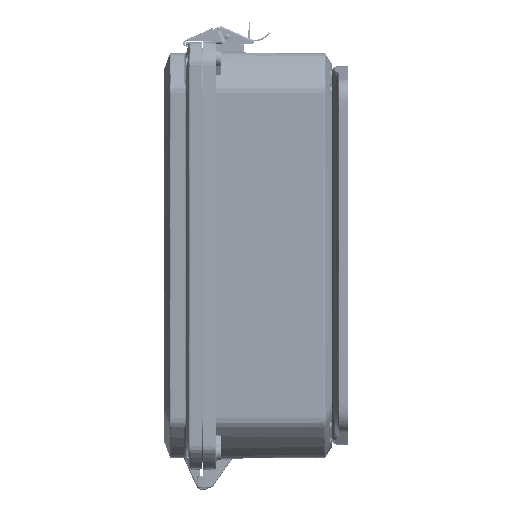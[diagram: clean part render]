
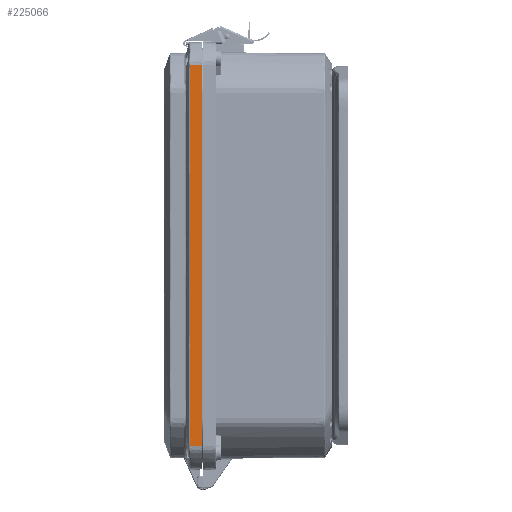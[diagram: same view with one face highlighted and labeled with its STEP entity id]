
A CAD part, left-side view. The second image highlights one B-rep face of the part: STEP entity #225066.
In plain terms, the highlighted planar face has unit normal (-0.999, 0.035, 0).
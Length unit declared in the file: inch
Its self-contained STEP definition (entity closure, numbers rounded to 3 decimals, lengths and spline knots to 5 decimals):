
#1344 = CARTESIAN_POINT ( 'NONE',  ( -7.62, 0., 5.89046 ) ) ;
#9575 = CARTESIAN_POINT ( 'NONE',  ( -7.60732, 0.36315, 3.4361 ) ) ;
#13326 = ORIENTED_EDGE ( 'NONE', *, *, #24095, .T. ) ;
#13771 = CARTESIAN_POINT ( 'NONE',  ( -7.60732, 0.36315, -3.4361 ) ) ;
#24095 = EDGE_CURVE ( 'NONE', #170306, #271813, #139493, .T. ) ;
#33733 = VERTEX_POINT ( 'NONE', #208884 ) ;
#38604 = CARTESIAN_POINT ( 'NONE',  ( -7.60731, 0.36331, -5.46095 ) ) ;
#40321 = CARTESIAN_POINT ( 'NONE',  ( -7.60731, 0.36335, -0.98174 ) ) ;
#44780 = CARTESIAN_POINT ( 'NONE',  ( -7.60732, 0.36323, 5.03144 ) ) ;
#56137 = CARTESIAN_POINT ( 'NONE',  ( -7.62, 0., -5.89046 ) ) ;
#57362 = VECTOR ( 'NONE', #117869, 39.37008 ) ;
#66920 = AXIS2_PLACEMENT_3D ( 'NONE', #282203, #283902, #177388 ) ;
#67737 = EDGE_CURVE ( 'NONE', #256598, #33733, #81345, .T. ) ;
#78933 = B_SPLINE_CURVE_WITH_KNOTS ( 'NONE', 3,
 ( #173411, #40321, #333119, #13771, #143275, #281667, #228394, #38604, #114889, #336574, #93539, #201838, #198301, #310013 ),
 .UNSPECIFIED., .F., .F.,
 ( 4, 2, 2, 1, 1, 1, 1, 2, 4 ),
 ( 0., 0.07481, 0.11221, 0.13092, 0.14027, 0.14494, 0.14728, 0.14845, 0.14962 ),
 .UNSPECIFIED. ) ;
#81345 = B_SPLINE_CURVE_WITH_KNOTS ( 'NONE', 3,
 ( #179613, #147761, #282638, #97966, #255974, #121144, #96252, #44780, #229411, #9575, #91019, #202837, #204556 ),
 .UNSPECIFIED., .F., .F.,
 ( 4, 2, 1, 1, 1, 1, 1, 2, 4 ),
 ( 0., 0.00117, 0.00234, 0.00468, 0.00935, 0.0187, 0.0374, 0.07481, 0.14962 ),
 .UNSPECIFIED. ) ;
#91019 = CARTESIAN_POINT ( 'NONE',  ( -7.60732, 0.36322, 1.96349 ) ) ;
#93539 = CARTESIAN_POINT ( 'NONE',  ( -7.60731, 0.36339, -5.8291 ) ) ;
#96252 = CARTESIAN_POINT ( 'NONE',  ( -7.60731, 0.36331, 5.46095 ) ) ;
#97966 = CARTESIAN_POINT ( 'NONE',  ( -7.60731, 0.36339, 5.8291 ) ) ;
#111429 = CARTESIAN_POINT ( 'NONE',  ( -7.60733, 0.36296, 5.89046 ) ) ;
#114889 = CARTESIAN_POINT ( 'NONE',  ( -7.60731, 0.36335, -5.67571 ) ) ;
#117869 = DIRECTION ( 'NONE',  ( 0., 0., 1. ) ) ;
#121144 = CARTESIAN_POINT ( 'NONE',  ( -7.60731, 0.36335, 5.67571 ) ) ;
#124982 = EDGE_CURVE ( 'NONE', #33733, #170306, #78933, .T. ) ;
#127673 = PLANE ( 'NONE',  #66920 ) ;
#139493 = LINE ( 'NONE', #56137, #299586 ) ;
#143275 = CARTESIAN_POINT ( 'NONE',  ( -7.60732, 0.36314, -3.92698 ) ) ;
#147761 = CARTESIAN_POINT ( 'NONE',  ( -7.60731, 0.36333, 5.87512 ) ) ;
#163668 = LINE ( 'NONE', #271883, #261203 ) ;
#170306 = VERTEX_POINT ( 'NONE', #245661 ) ;
#171083 = LINE ( 'NONE', #337805, #57362 ) ;
#173411 = CARTESIAN_POINT ( 'NONE',  ( -7.60731, 0.36337, 0. ) ) ;
#177388 = DIRECTION ( 'NONE',  ( -0.035, -0.999, 0. ) ) ;
#179166 = FACE_OUTER_BOUND ( 'NONE', #216485, .T. ) ;
#179613 = CARTESIAN_POINT ( 'NONE',  ( -7.60733, 0.36296, 5.89046 ) ) ;
#198301 = CARTESIAN_POINT ( 'NONE',  ( -7.60731, 0.36333, -5.87512 ) ) ;
#201838 = CARTESIAN_POINT ( 'NONE',  ( -7.60731, 0.3634, -5.85978 ) ) ;
#202837 = CARTESIAN_POINT ( 'NONE',  ( -7.60731, 0.36335, 0.98174 ) ) ;
#204556 = CARTESIAN_POINT ( 'NONE',  ( -7.60731, 0.36337, 0. ) ) ;
#208884 = CARTESIAN_POINT ( 'NONE',  ( -7.60731, 0.36337, 0. ) ) ;
#216485 = EDGE_LOOP ( 'NONE', ( #249708, #296234, #13326, #221835, #257056 ) ) ;
#221835 = ORIENTED_EDGE ( 'NONE', *, *, #228457, .T. ) ;
#225066 = ADVANCED_FACE ( 'NONE', ( #179166 ), #127673, .T. ) ;
#228394 = CARTESIAN_POINT ( 'NONE',  ( -7.60732, 0.36323, -5.03144 ) ) ;
#228457 = EDGE_CURVE ( 'NONE', #271813, #340518, #171083, .T. ) ;
#228827 = EDGE_CURVE ( 'NONE', #256598, #340518, #163668, .T. ) ;
#229411 = CARTESIAN_POINT ( 'NONE',  ( -7.60732, 0.36314, 4.17241 ) ) ;
#245661 = CARTESIAN_POINT ( 'NONE',  ( -7.60733, 0.36296, -5.89046 ) ) ;
#249708 = ORIENTED_EDGE ( 'NONE', *, *, #67737, .T. ) ;
#255974 = CARTESIAN_POINT ( 'NONE',  ( -7.60731, 0.36338, 5.78309 ) ) ;
#256598 = VERTEX_POINT ( 'NONE', #111429 ) ;
#257056 = ORIENTED_EDGE ( 'NONE', *, *, #228827, .F. ) ;
#261203 = VECTOR ( 'NONE', #268409, 39.37008 ) ;
#268409 = DIRECTION ( 'NONE',  ( -0.035, -0.999, 0. ) ) ;
#271813 = VERTEX_POINT ( 'NONE', #334489 ) ;
#271883 = CARTESIAN_POINT ( 'NONE',  ( -7.62, 0., 5.89046 ) ) ;
#281667 = CARTESIAN_POINT ( 'NONE',  ( -7.60732, 0.36319, -4.66328 ) ) ;
#282203 = CARTESIAN_POINT ( 'NONE',  ( -7.62, 0., -5.89046 ) ) ;
#282638 = CARTESIAN_POINT ( 'NONE',  ( -7.60731, 0.3634, 5.85978 ) ) ;
#283902 = DIRECTION ( 'NONE',  ( -0.999, 0.035, 0. ) ) ;
#296234 = ORIENTED_EDGE ( 'NONE', *, *, #124982, .T. ) ;
#299586 = VECTOR ( 'NONE', #324064, 39.37008 ) ;
#310013 = CARTESIAN_POINT ( 'NONE',  ( -7.60733, 0.36296, -5.89046 ) ) ;
#324064 = DIRECTION ( 'NONE',  ( -0.035, -0.999, 0. ) ) ;
#333119 = CARTESIAN_POINT ( 'NONE',  ( -7.60732, 0.36322, -1.96349 ) ) ;
#334489 = CARTESIAN_POINT ( 'NONE',  ( -7.62, 0., -5.89046 ) ) ;
#336574 = CARTESIAN_POINT ( 'NONE',  ( -7.60731, 0.36338, -5.78308 ) ) ;
#337805 = CARTESIAN_POINT ( 'NONE',  ( -7.62, 0., -5.89046 ) ) ;
#340518 = VERTEX_POINT ( 'NONE', #1344 ) ;
